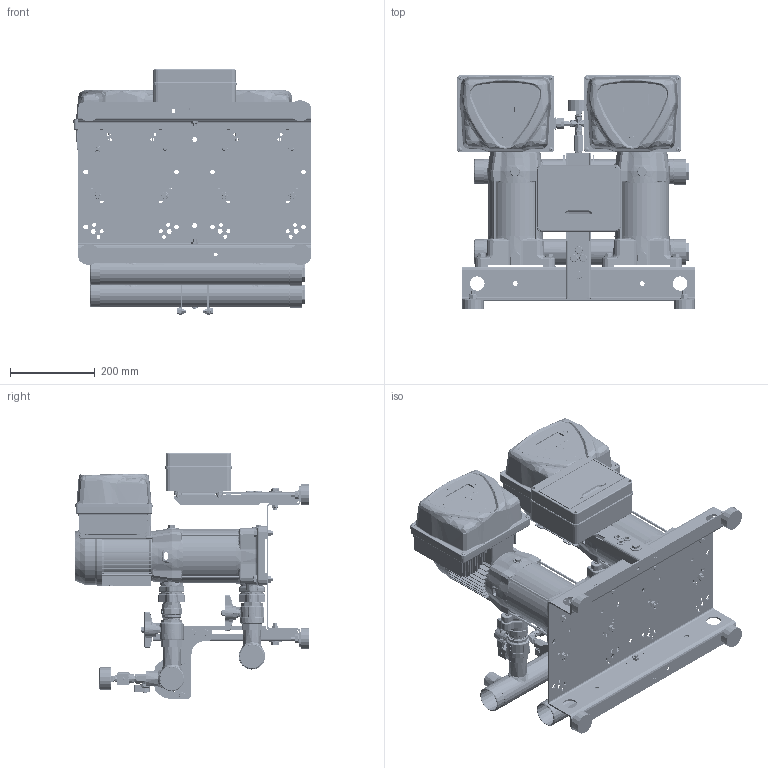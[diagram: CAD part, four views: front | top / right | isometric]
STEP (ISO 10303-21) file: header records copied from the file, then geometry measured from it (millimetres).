
FILE_DESCRIPTION((''),'2;1');
FILE_NAME('2GPE_CVM_A10_ESPM_REV4_ASM','2024-12-03T11:41:28',('Utente'),('"Ebara Pumps Europe S.p.A"'),'CREO PARAMETRIC BY PTC INC, 2022124','CREO PARAMETRIC BY PTC INC, 2022124','');
FILE_SCHEMA(('AUTOMOTIVE_DESIGN { 1 0 10303 214 1 1 1 1 }'));
Products named in the file (45): 62508_275562936; CALOTTA_F_A304_DN50_369800820; VAL_INT_MF_OTN_CIM301-14_DN32; VAL_INT_M-F_OTN_CIM301_DN32_ASM; EP_CVM_A-10_R; EP_CVM_A-10_R_ASM; ADATTATORE_E-SPD_MEC71; E-SPD_ADATTATORE_MEC71_ASM; BACK_E-SPD_PLUS_2200-4000; COVER_E-SPD_PLUS_2200-4000; COM_E-SPDM_MEC71_VERT_ASM; VAL-NR-MF-OTN-CIM32-DN32; VALV_NR_MF_CIM32_DN32_ASM; RONDEL-P_FE_ZN_UNI6592_M10; DADO_AUTOAGG_M10_ESAG; VITI_TE_ISO4017_M10_L40; 62513_275562944; VAL_INT_MF_OTN_CIM012_DN8; NIPPLO_OTG_8_380000861; CROCE_OTG_DN8_380000881; TRASD_16BAR_460500024; MAN_POS_D50_10BAR_361600003; BASE_2GP_I300-B300_DNRV; MONTANTE_H300_271472898; PIEDINO_CIL_369650010; DADI_NORM_ISO4032_FE_ZN_M10; RONDEL-P_ZN_UNI6593_M10X30X2-5; VITI_TE_ISO4017_M10_L45; TRAVERSO_MONT_L200_271472882; RONDEL-P_FE_ZN_UNI6593_M6X18X2; RONDEL-P_FE_ZN_UNI6592_M6; VITI_TE_ISO4017_M6_L20; DADI_NORM_ISO4032_FE_ZN_M6; DNRV_2P_I300-B300_H300-Q195X150_ASM; QUADRO_PROT_2P_M_ELENTEK; PG_PVC_D10-5_380000891; TAPPO-SALVAFIL_D31; 271473006; 271472998; 72578_271473004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
Assembly tree (134 placements, depth 3):
  2GPE_CVM_A10_ESPM_REV4_ASM
    62508_275562936
    CALOTTA_F_A304_DN50_369800820  x2
    VAL_INT_M-F_OTN_CIM301_DN32_ASM  x4
      VAL_INT_MF_OTN_CIM301-14_DN32
    EP_CVM_A-10_R_ASM  x2
      EP_CVM_A-10_R
    E-SPD_ADATTATORE_MEC71_ASM  x2
      ADATTATORE_E-SPD_MEC71
    COM_E-SPDM_MEC71_VERT_ASM  x2
      BACK_E-SPD_PLUS_2200-4000
      COVER_E-SPD_PLUS_2200-4000
    VALV_NR_MF_CIM32_DN32_ASM  x2
      VAL-NR-MF-OTN-CIM32-DN32
    RONDEL-P_FE_ZN_UNI6592_M10  x8
    DADO_AUTOAGG_M10_ESAG  x9
    VITI_TE_ISO4017_M10_L40  x8
    62513_275562944
    VAL_INT_MF_OTN_CIM012_DN8
    NIPPLO_OTG_8_380000861
    CROCE_OTG_DN8_380000881
    TRASD_16BAR_460500024  x2
    MAN_POS_D50_10BAR_361600003
    DNRV_2P_I300-B300_H300-Q195X150_ASM
      BASE_2GP_I300-B300_DNRV
      MONTANTE_H300_271472898
      PIEDINO_CIL_369650010  x4
      RONDEL-P_FE_ZN_UNI6592_M10  x4
      DADI_NORM_ISO4032_FE_ZN_M10  x4
      RONDEL-P_ZN_UNI6593_M10X30X2-5
      VITI_TE_ISO4017_M10_L45
      TRAVERSO_MONT_L200_271472882  x2
      RONDEL-P_FE_ZN_UNI6593_M6X18X2  x8
      RONDEL-P_FE_ZN_UNI6592_M6  x4
      VITI_TE_ISO4017_M6_L20  x4
      DADI_NORM_ISO4032_FE_ZN_M6  x4
      DADO_AUTOAGG_M10_ESAG
    QUADRO_PROT_2P_M_ELENTEK
    PG_PVC_D10-5_380000891  x3
    TAPPO-SALVAFIL_D31  x2
    271473006
    271472998  x2
    72578_271473004  x2
    RONDEL-P_ZN_UNI6593_M10X30X2-5
    VITI_TE_ISO4017_M10_L45
    RONDEL-P_FE_ZN_UNI6592_M8  x12
    VITI_TE_ISO4017_M8_L18  x8
    DADI_NORM_ISO4032_FE_ZN_M8  x4
    DADO_AUTOAGG_M8_ESAG  x4
Bounding box: 562.5 x 553.6 x 581.25 mm (x, y, z)
Volume: 4060546 mm3; surface area: 4421804.9 mm2
Topology: 296 solids, 1277 shells, 32658 faces, 85173 edges, 52542 vertices
Faces by surface type: plane 15767, cylinder 8005, bspline 2637, sphere 2073, cone 1521, extrusion 1426, torus 1229
Entity records: 735252 total; most frequent: CARTESIAN_POINT 288251, ORIENTED_EDGE 74528, DIRECTION 71820, EDGE_CURVE 38610, VERTEX_POINT 24222, AXIS2_PLACEMENT_3D 23963, VECTOR 23762, LINE 23132
